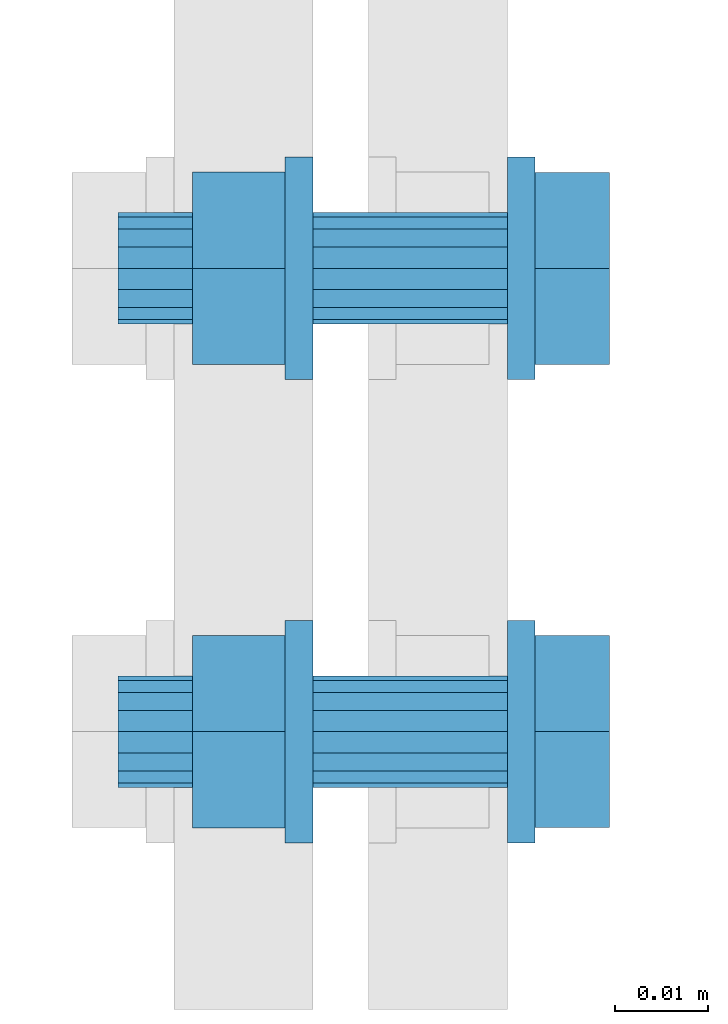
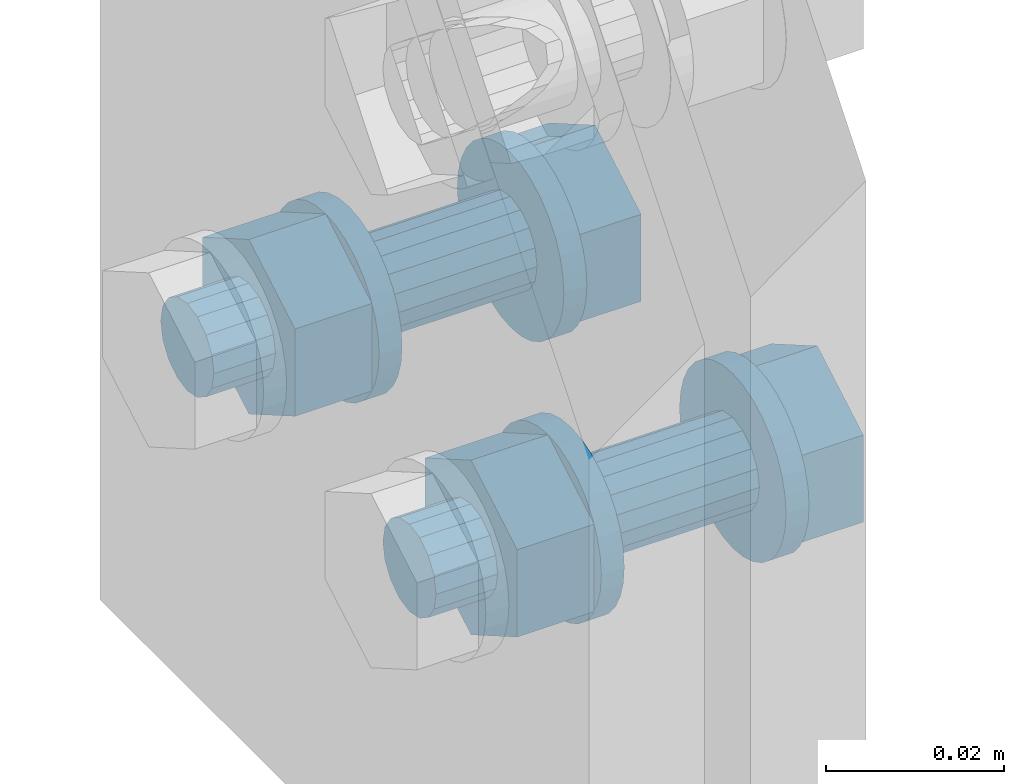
# One storey, part 11 of 13: 2 mechanical fasteners.
"""IFC4X3_ADD2 building model written with IfcOpenShell, lengths in millimetres."""

from ifc_helpers import new_model, entity, si_unit, converted_unit, derived_unit, direction, origin, place, context, project, spatial, faceted_brep, element, save


model = new_model("IFC4X3_ADD2")

# Units and contexts
model_context = context("Model", 3, precision=0.01, world=origin(), true_north=direction((6.123233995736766e-17, 1.0)))
plan_context = context("Plan", 3, precision=0.01, world=origin(), true_north=direction((6.123233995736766e-17, 1.0)))
ifc_project = project(units=[si_unit("LENGTHUNIT", "METRE", prefix="MILLI"), converted_unit("PLANEANGLEUNIT", "DEGREE", entity("IfcPlaneAngleMeasure", 0.017453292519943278), si_unit("PLANEANGLEUNIT", "RADIAN"), dimensions=[0, 0, 0, 0, 0, 0, 0]), si_unit("AREAUNIT", "SQUARE_METRE"), si_unit("VOLUMEUNIT", "CUBIC_METRE"), derived_unit("THERMALTRANSMITTANCEUNIT", [(si_unit("MASSUNIT", "GRAM", prefix="KILO"), 1), (si_unit("THERMODYNAMICTEMPERATUREUNIT", "KELVIN"), -1), (si_unit("TIMEUNIT", "SECOND"), -3)]), derived_unit("USERDEFINED", [(si_unit("MASSUNIT", "GRAM", prefix="KILO"), 1), (si_unit("THERMODYNAMICTEMPERATUREUNIT", "KELVIN"), -1), (si_unit("TIMEUNIT", "SECOND"), -2)]), derived_unit("THERMALRESISTANCEUNIT", [(si_unit("MASSUNIT", "GRAM", prefix="KILO"), -1), (si_unit("TIMEUNIT", "SECOND"), 3), (si_unit("THERMODYNAMICTEMPERATUREUNIT", "KELVIN"), 1)]), si_unit("MASSUNIT", "GRAM", prefix="KILO"), derived_unit("MOMENTOFINERTIAUNIT", [(si_unit("LENGTHUNIT", "METRE"), 4)]), derived_unit("LINEARFORCEUNIT", [(si_unit("MASSUNIT", "GRAM", prefix="KILO"), 1), (si_unit("TIMEUNIT", "SECOND"), -2)]), derived_unit("WARPINGCONSTANTUNIT", [(si_unit("LENGTHUNIT", "METRE"), 6)]), si_unit("PRESSUREUNIT", "PASCAL"), derived_unit("MASSDENSITYUNIT", [(si_unit("MASSUNIT", "GRAM", prefix="KILO"), 1), (si_unit("LENGTHUNIT", "METRE"), -3)]), derived_unit("MODULUSOFELASTICITYUNIT", [(si_unit("MASSUNIT", "GRAM", prefix="KILO"), 1), (si_unit("TIMEUNIT", "SECOND"), -2), (si_unit("LENGTHUNIT", "METRE"), -1)]), derived_unit("THERMALEXPANSIONCOEFFICIENTUNIT", [(si_unit("THERMODYNAMICTEMPERATUREUNIT", "KELVIN"), -1)]), derived_unit("VAPORPERMEABILITYUNIT", [(si_unit("LENGTHUNIT", "METRE"), -1), (si_unit("TIMEUNIT", "SECOND"), 1)]), derived_unit("USERDEFINED", [(si_unit("MASSUNIT", "GRAM", prefix="KILO"), 1), (si_unit("TIMEUNIT", "SECOND"), -3), (si_unit("LENGTHUNIT", "METRE"), 3), (si_unit("ELECTRICCURRENTUNIT", "AMPERE"), -2)]), derived_unit("SPECIFICHEATCAPACITYUNIT", [(si_unit("THERMODYNAMICTEMPERATUREUNIT", "KELVIN"), -1), (si_unit("TIMEUNIT", "SECOND"), -2), (si_unit("LENGTHUNIT", "METRE"), 2)]), derived_unit("THERMALCONDUCTANCEUNIT", [(si_unit("MASSUNIT", "GRAM", prefix="KILO"), 1), (si_unit("THERMODYNAMICTEMPERATUREUNIT", "KELVIN"), -1), (si_unit("TIMEUNIT", "SECOND"), -3), (si_unit("LENGTHUNIT", "METRE"), 1)])], contexts=[model_context, plan_context])

# Site, building, storey
site_placement = place(None, origin())
site = spatial("IfcSite", under=ifc_project, at=site_placement, Name="Default", CompositionType="ELEMENT")
building_placement = place(site_placement, origin())
building = spatial("IfcBuilding", under=site, at=building_placement, Name="Complex structure", CompositionType="ELEMENT")
storey_placement = place(building_placement, origin())
storey = spatial("IfcBuildingStorey", under=building, at=storey_placement, Name="Level 00", CompositionType="ELEMENT", Elevation=0.0)

# Mechanical fasteners
mechanical_fastener_1_placement = place(storey_placement, origin())
element("IfcMechanicalFastener", 1, at=mechanical_fastener_1_placement, inside=storey, ObjectType="Bolt#5", NominalDiameter=12.0, NominalLength=45.0, context=model_context, shape_type="Brep", body=[
    faceted_brep([(-5124.221550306, -1269.866703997, 2900.0), (-5127.221550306, -1269.866703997, 2900.0), (-5127.221550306, -1269.636127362, 2897.658916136), (-5124.221550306, -1269.636127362, 2897.658916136), (-5127.221550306, -1268.953258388, 2895.407798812), (-5124.221550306, -1268.953258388, 2895.407798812), (-5127.221550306, -1267.844339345, 2893.333157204), (-5124.221550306, -1267.844339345, 2893.333157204), (-5127.221550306, -1266.351985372, 2891.514718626), (-5124.221550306, -1266.351985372, 2891.514718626), (-5127.221550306, -1264.533546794, 2890.022364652), (-5124.221550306, -1264.533546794, 2890.022364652), (-5127.221550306, -1262.458905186, 2888.91344561), (-5124.221550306, -1262.458905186, 2888.91344561), (-5127.221550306, -1260.207787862, 2888.230576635), (-5124.221550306, -1260.207787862, 2888.230576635), (-5127.221550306, -1257.866703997, 2888.0), (-5124.221550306, -1257.866703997, 2888.0), (-5127.221550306, -1255.525620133, 2888.230576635), (-5124.221550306, -1255.525620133, 2888.230576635), (-5127.221550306, -1253.274502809, 2888.91344561), (-5124.221550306, -1253.274502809, 2888.91344561), (-5127.221550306, -1251.199861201, 2890.022364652), (-5124.221550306, -1251.199861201, 2890.022364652), (-5127.221550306, -1249.381422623, 2891.514718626), (-5124.221550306, -1249.381422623, 2891.514718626), (-5127.221550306, -1247.88906865, 2893.333157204), (-5124.221550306, -1247.88906865, 2893.333157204), (-5127.221550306, -1246.780149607, 2895.407798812), (-5124.221550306, -1246.780149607, 2895.407798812), (-5127.221550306, -1246.097280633, 2897.658916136), (-5124.221550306, -1246.097280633, 2897.658916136), (-5127.221550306, -1245.866703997, 2900.0), (-5124.221550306, -1245.866703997, 2900.0), (-5127.221550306, -1246.097280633, 2902.341083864), (-5124.221550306, -1246.097280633, 2902.341083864), (-5127.221550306, -1246.780149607, 2904.592201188), (-5124.221550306, -1246.780149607, 2904.592201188), (-5127.221550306, -1247.88906865, 2906.666842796), (-5124.221550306, -1247.88906865, 2906.666842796), (-5127.221550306, -1249.381422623, 2908.485281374), (-5124.221550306, -1249.381422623, 2908.485281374), (-5127.221550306, -1251.199861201, 2909.977635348), (-5124.221550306, -1251.199861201, 2909.977635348), (-5127.221550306, -1253.274502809, 2911.08655439), (-5124.221550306, -1253.274502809, 2911.08655439), (-5127.221550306, -1255.525620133, 2911.769423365), (-5124.221550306, -1255.525620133, 2911.769423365), (-5127.221550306, -1257.866703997, 2912.0), (-5124.221550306, -1257.866703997, 2912.0), (-5127.221550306, -1260.207787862, 2911.769423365), (-5124.221550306, -1260.207787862, 2911.769423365), (-5127.221550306, -1262.458905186, 2911.08655439), (-5124.221550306, -1262.458905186, 2911.08655439), (-5127.221550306, -1264.533546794, 2909.977635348), (-5124.221550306, -1264.533546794, 2909.977635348), (-5127.221550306, -1266.351985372, 2908.485281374), (-5124.221550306, -1266.351985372, 2908.485281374), (-5127.221550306, -1267.844339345, 2906.666842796), (-5124.221550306, -1267.844339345, 2906.666842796), (-5127.221550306, -1268.953258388, 2904.592201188), (-5124.221550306, -1268.953258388, 2904.592201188), (-5127.221550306, -1269.636127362, 2902.341083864), (-5124.221550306, -1269.636127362, 2902.341083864)], [[[0, 1, 2, 3]], [[3, 2, 4, 5]], [[5, 4, 6, 7]], [[7, 6, 8, 9]], [[9, 8, 10, 11]], [[11, 10, 12, 13]], [[13, 12, 14, 15]], [[15, 14, 16, 17]], [[17, 16, 18, 19]], [[19, 18, 20, 21]], [[21, 20, 22, 23]], [[23, 22, 24, 25]], [[25, 24, 26, 27]], [[27, 26, 28, 29]], [[29, 28, 30, 31]], [[31, 30, 32, 33]], [[33, 32, 34, 35]], [[35, 34, 36, 37]], [[37, 36, 38, 39]], [[39, 38, 40, 41]], [[41, 40, 42, 43]], [[43, 42, 44, 45]], [[45, 44, 46, 47]], [[47, 46, 48, 49]], [[49, 48, 50, 51]], [[51, 50, 52, 53]], [[53, 52, 54, 55]], [[55, 54, 56, 57]], [[57, 56, 58, 59]], [[59, 58, 60, 61]], [[61, 60, 62, 63]], [[63, 62, 1, 0]], [[0, 3, 5, 7, 9, 11, 13, 15, 17, 19, 21, 23, 25, 27, 29, 31, 33, 35, 37, 39, 41, 43, 45, 47, 49, 51, 53, 55, 57, 59, 61, 63]], [[1, 62, 60, 58, 56, 54, 52, 50, 48, 46, 44, 42, 40, 38, 36, 34, 32, 30, 28, 26, 24, 22, 20, 18, 16, 14, 12, 10, 8, 6, 4, 2]]]),
    faceted_brep([(-5124.221550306, -1247.513370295, 2894.0225), (-5116.221550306, -1247.513370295, 2894.0225), (-5116.221550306, -1257.866703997, 2888.045), (-5124.221550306, -1257.866703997, 2888.045), (-5116.221550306, -1268.2200377, 2894.0225), (-5124.221550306, -1268.2200377, 2894.0225), (-5116.221550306, -1268.2200377, 2905.9775), (-5124.221550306, -1268.2200377, 2905.9775), (-5116.221550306, -1257.866703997, 2911.955), (-5124.221550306, -1257.866703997, 2911.955), (-5116.221550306, -1247.513370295, 2905.9775), (-5124.221550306, -1247.513370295, 2905.9775)], [[[0, 1, 2, 3]], [[3, 2, 4, 5]], [[5, 4, 6, 7]], [[7, 6, 8, 9]], [[9, 8, 10, 11]], [[11, 10, 1, 0]], [[4, 2, 1, 10, 8, 6]], [[0, 3, 5, 7, 9, 11]]]),
    faceted_brep([(-5127.221550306, -1263.866703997, 2900.0), (-5148.221550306, -1263.866703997, 2900.0), (-5148.221550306, -1263.409981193, 2897.703899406), (-5127.221550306, -1263.409981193, 2897.703899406), (-5148.221550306, -1262.109344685, 2895.757359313), (-5127.221550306, -1262.109344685, 2895.757359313), (-5148.221550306, -1260.162804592, 2894.456722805), (-5127.221550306, -1260.162804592, 2894.456722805), (-5148.221550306, -1257.866703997, 2894.0), (-5127.221550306, -1257.866703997, 2894.0), (-5148.221550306, -1255.570603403, 2894.456722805), (-5127.221550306, -1255.570603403, 2894.456722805), (-5148.221550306, -1253.62406331, 2895.757359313), (-5127.221550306, -1253.62406331, 2895.757359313), (-5148.221550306, -1252.323426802, 2897.703899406), (-5127.221550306, -1252.323426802, 2897.703899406), (-5148.221550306, -1251.866703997, 2900.0), (-5127.221550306, -1251.866703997, 2900.0), (-5148.221550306, -1252.323426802, 2902.296100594), (-5127.221550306, -1252.323426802, 2902.296100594), (-5148.221550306, -1253.62406331, 2904.242640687), (-5127.221550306, -1253.62406331, 2904.242640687), (-5148.221550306, -1255.570603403, 2905.543277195), (-5127.221550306, -1255.570603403, 2905.543277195), (-5148.221550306, -1257.866703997, 2906.0), (-5127.221550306, -1257.866703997, 2906.0), (-5148.221550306, -1260.162804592, 2905.543277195), (-5127.221550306, -1260.162804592, 2905.543277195), (-5148.221550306, -1262.109344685, 2904.242640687), (-5127.221550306, -1262.109344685, 2904.242640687), (-5148.221550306, -1263.409981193, 2902.296100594), (-5127.221550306, -1263.409981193, 2902.296100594)], [[[0, 1, 2, 3]], [[3, 2, 4, 5]], [[5, 4, 6, 7]], [[7, 6, 8, 9]], [[9, 8, 10, 11]], [[11, 10, 12, 13]], [[13, 12, 14, 15]], [[15, 14, 16, 17]], [[17, 16, 18, 19]], [[19, 18, 20, 21]], [[21, 20, 22, 23]], [[23, 22, 24, 25]], [[25, 24, 26, 27]], [[27, 26, 28, 29]], [[29, 28, 30, 31]], [[31, 30, 1, 0]], [[0, 3, 5, 7, 9, 11, 13, 15, 17, 19, 21, 23, 25, 27, 29, 31]], [[1, 30, 28, 26, 24, 22, 20, 18, 16, 14, 12, 10, 8, 6, 4, 2]]]),
    faceted_brep([(-5148.221550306, -1269.866703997, 2900.0), (-5151.221550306, -1269.866703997, 2900.0), (-5151.221550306, -1269.636127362, 2897.658916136), (-5148.221550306, -1269.636127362, 2897.658916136), (-5151.221550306, -1268.953258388, 2895.407798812), (-5148.221550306, -1268.953258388, 2895.407798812), (-5151.221550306, -1267.844339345, 2893.333157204), (-5148.221550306, -1267.844339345, 2893.333157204), (-5151.221550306, -1266.351985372, 2891.514718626), (-5148.221550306, -1266.351985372, 2891.514718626), (-5151.221550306, -1264.533546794, 2890.022364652), (-5148.221550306, -1264.533546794, 2890.022364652), (-5151.221550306, -1262.458905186, 2888.91344561), (-5148.221550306, -1262.458905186, 2888.91344561), (-5151.221550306, -1260.207787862, 2888.230576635), (-5148.221550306, -1260.207787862, 2888.230576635), (-5151.221550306, -1257.866703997, 2888.0), (-5148.221550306, -1257.866703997, 2888.0), (-5151.221550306, -1255.525620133, 2888.230576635), (-5148.221550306, -1255.525620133, 2888.230576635), (-5151.221550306, -1253.274502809, 2888.91344561), (-5148.221550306, -1253.274502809, 2888.91344561), (-5151.221550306, -1251.199861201, 2890.022364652), (-5148.221550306, -1251.199861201, 2890.022364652), (-5151.221550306, -1249.381422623, 2891.514718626), (-5148.221550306, -1249.381422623, 2891.514718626), (-5151.221550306, -1247.88906865, 2893.333157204), (-5148.221550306, -1247.88906865, 2893.333157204), (-5151.221550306, -1246.780149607, 2895.407798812), (-5148.221550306, -1246.780149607, 2895.407798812), (-5151.221550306, -1246.097280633, 2897.658916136), (-5148.221550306, -1246.097280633, 2897.658916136), (-5151.221550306, -1245.866703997, 2900.0), (-5148.221550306, -1245.866703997, 2900.0), (-5151.221550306, -1246.097280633, 2902.341083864), (-5148.221550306, -1246.097280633, 2902.341083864), (-5151.221550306, -1246.780149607, 2904.592201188), (-5148.221550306, -1246.780149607, 2904.592201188), (-5151.221550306, -1247.88906865, 2906.666842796), (-5148.221550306, -1247.88906865, 2906.666842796), (-5151.221550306, -1249.381422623, 2908.485281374), (-5148.221550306, -1249.381422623, 2908.485281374), (-5151.221550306, -1251.199861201, 2909.977635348), (-5148.221550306, -1251.199861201, 2909.977635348), (-5151.221550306, -1253.274502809, 2911.08655439), (-5148.221550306, -1253.274502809, 2911.08655439), (-5151.221550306, -1255.525620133, 2911.769423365), (-5148.221550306, -1255.525620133, 2911.769423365), (-5151.221550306, -1257.866703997, 2912.0), (-5148.221550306, -1257.866703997, 2912.0), (-5151.221550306, -1260.207787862, 2911.769423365), (-5148.221550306, -1260.207787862, 2911.769423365), (-5151.221550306, -1262.458905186, 2911.08655439), (-5148.221550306, -1262.458905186, 2911.08655439), (-5151.221550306, -1264.533546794, 2909.977635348), (-5148.221550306, -1264.533546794, 2909.977635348), (-5151.221550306, -1266.351985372, 2908.485281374), (-5148.221550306, -1266.351985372, 2908.485281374), (-5151.221550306, -1267.844339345, 2906.666842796), (-5148.221550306, -1267.844339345, 2906.666842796), (-5151.221550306, -1268.953258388, 2904.592201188), (-5148.221550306, -1268.953258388, 2904.592201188), (-5151.221550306, -1269.636127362, 2902.341083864), (-5148.221550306, -1269.636127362, 2902.341083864)], [[[0, 1, 2, 3]], [[3, 2, 4, 5]], [[5, 4, 6, 7]], [[7, 6, 8, 9]], [[9, 8, 10, 11]], [[11, 10, 12, 13]], [[13, 12, 14, 15]], [[15, 14, 16, 17]], [[17, 16, 18, 19]], [[19, 18, 20, 21]], [[21, 20, 22, 23]], [[23, 22, 24, 25]], [[25, 24, 26, 27]], [[27, 26, 28, 29]], [[29, 28, 30, 31]], [[31, 30, 32, 33]], [[33, 32, 34, 35]], [[35, 34, 36, 37]], [[37, 36, 38, 39]], [[39, 38, 40, 41]], [[41, 40, 42, 43]], [[43, 42, 44, 45]], [[45, 44, 46, 47]], [[47, 46, 48, 49]], [[49, 48, 50, 51]], [[51, 50, 52, 53]], [[53, 52, 54, 55]], [[55, 54, 56, 57]], [[57, 56, 58, 59]], [[59, 58, 60, 61]], [[61, 60, 62, 63]], [[63, 62, 1, 0]], [[0, 3, 5, 7, 9, 11, 13, 15, 17, 19, 21, 23, 25, 27, 29, 31, 33, 35, 37, 39, 41, 43, 45, 47, 49, 51, 53, 55, 57, 59, 61, 63]], [[1, 62, 60, 58, 56, 54, 52, 50, 48, 46, 44, 42, 40, 38, 36, 34, 32, 30, 28, 26, 24, 22, 20, 18, 16, 14, 12, 10, 8, 6, 4, 2]]]),
    faceted_brep([(-5161.221550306, -1247.474399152, 2894.0), (-5151.221550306, -1247.474399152, 2894.0), (-5151.221550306, -1257.866703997, 2888.0), (-5161.221550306, -1257.866703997, 2888.0), (-5151.221550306, -1268.259008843, 2894.0), (-5161.221550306, -1268.259008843, 2894.0), (-5151.221550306, -1268.259008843, 2906.0), (-5161.221550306, -1268.259008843, 2906.0), (-5151.221550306, -1257.866703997, 2912.0), (-5161.221550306, -1257.866703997, 2912.0), (-5151.221550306, -1247.474399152, 2906.0), (-5161.221550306, -1247.474399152, 2906.0)], [[[0, 1, 2, 3]], [[3, 2, 4, 5]], [[5, 4, 6, 7]], [[7, 6, 8, 9]], [[9, 8, 10, 11]], [[11, 10, 1, 0]], [[4, 2, 1, 10, 8, 6]], [[0, 3, 5, 7, 9, 11]]]),
    faceted_brep([(-5161.221550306, -1263.866703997, 2900.0), (-5169.221550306, -1263.866703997, 2900.0), (-5169.221550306, -1263.409981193, 2897.703899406), (-5161.221550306, -1263.409981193, 2897.703899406), (-5169.221550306, -1262.109344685, 2895.757359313), (-5161.221550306, -1262.109344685, 2895.757359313), (-5169.221550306, -1260.162804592, 2894.456722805), (-5161.221550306, -1260.162804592, 2894.456722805), (-5169.221550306, -1257.866703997, 2894.0), (-5161.221550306, -1257.866703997, 2894.0), (-5169.221550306, -1255.570603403, 2894.456722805), (-5161.221550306, -1255.570603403, 2894.456722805), (-5169.221550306, -1253.62406331, 2895.757359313), (-5161.221550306, -1253.62406331, 2895.757359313), (-5169.221550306, -1252.323426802, 2897.703899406), (-5161.221550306, -1252.323426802, 2897.703899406), (-5169.221550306, -1251.866703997, 2900.0), (-5161.221550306, -1251.866703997, 2900.0), (-5169.221550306, -1252.323426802, 2902.296100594), (-5161.221550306, -1252.323426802, 2902.296100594), (-5169.221550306, -1253.62406331, 2904.242640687), (-5161.221550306, -1253.62406331, 2904.242640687), (-5169.221550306, -1255.570603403, 2905.543277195), (-5161.221550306, -1255.570603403, 2905.543277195), (-5169.221550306, -1257.866703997, 2906.0), (-5161.221550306, -1257.866703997, 2906.0), (-5169.221550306, -1260.162804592, 2905.543277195), (-5161.221550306, -1260.162804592, 2905.543277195), (-5169.221550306, -1262.109344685, 2904.242640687), (-5161.221550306, -1262.109344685, 2904.242640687), (-5169.221550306, -1263.409981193, 2902.296100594), (-5161.221550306, -1263.409981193, 2902.296100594)], [[[0, 1, 2, 3]], [[3, 2, 4, 5]], [[5, 4, 6, 7]], [[7, 6, 8, 9]], [[9, 8, 10, 11]], [[11, 10, 12, 13]], [[13, 12, 14, 15]], [[15, 14, 16, 17]], [[17, 16, 18, 19]], [[19, 18, 20, 21]], [[21, 20, 22, 23]], [[23, 22, 24, 25]], [[25, 24, 26, 27]], [[27, 26, 28, 29]], [[29, 28, 30, 31]], [[31, 30, 1, 0]], [[0, 3, 5, 7, 9, 11, 13, 15, 17, 19, 21, 23, 25, 27, 29, 31]], [[1, 30, 28, 26, 24, 22, 20, 18, 16, 14, 12, 10, 8, 6, 4, 2]]]),
])
mechanical_fastener_2_placement = place(storey_placement, origin())
element("IfcMechanicalFastener", 2, at=mechanical_fastener_2_placement, inside=storey, ObjectType="Bolt#6", NominalDiameter=12.0, NominalLength=45.0, context=model_context, shape_type="Brep", body=[
    faceted_brep([(-5124.221550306, -1295.866703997, 2900.0), (-5127.221550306, -1295.866703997, 2900.0), (-5127.221550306, -1296.097280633, 2902.341083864), (-5124.221550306, -1296.097280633, 2902.341083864), (-5127.221550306, -1296.780149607, 2904.592201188), (-5124.221550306, -1296.780149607, 2904.592201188), (-5127.221550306, -1297.88906865, 2906.666842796), (-5124.221550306, -1297.88906865, 2906.666842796), (-5127.221550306, -1299.381422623, 2908.485281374), (-5124.221550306, -1299.381422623, 2908.485281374), (-5127.221550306, -1301.199861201, 2909.977635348), (-5124.221550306, -1301.199861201, 2909.977635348), (-5127.221550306, -1303.274502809, 2911.08655439), (-5124.221550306, -1303.274502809, 2911.08655439), (-5127.221550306, -1305.525620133, 2911.769423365), (-5124.221550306, -1305.525620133, 2911.769423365), (-5127.221550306, -1307.866703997, 2912.0), (-5124.221550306, -1307.866703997, 2912.0), (-5127.221550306, -1310.207787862, 2911.769423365), (-5124.221550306, -1310.207787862, 2911.769423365), (-5127.221550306, -1312.458905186, 2911.08655439), (-5124.221550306, -1312.458905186, 2911.08655439), (-5127.221550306, -1314.533546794, 2909.977635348), (-5124.221550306, -1314.533546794, 2909.977635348), (-5127.221550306, -1316.351985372, 2908.485281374), (-5124.221550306, -1316.351985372, 2908.485281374), (-5127.221550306, -1317.844339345, 2906.666842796), (-5124.221550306, -1317.844339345, 2906.666842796), (-5127.221550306, -1318.953258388, 2904.592201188), (-5124.221550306, -1318.953258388, 2904.592201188), (-5127.221550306, -1319.636127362, 2902.341083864), (-5124.221550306, -1319.636127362, 2902.341083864), (-5127.221550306, -1319.866703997, 2900.0), (-5124.221550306, -1319.866703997, 2900.0), (-5127.221550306, -1319.636127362, 2897.658916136), (-5124.221550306, -1319.636127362, 2897.658916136), (-5127.221550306, -1318.953258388, 2895.407798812), (-5124.221550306, -1318.953258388, 2895.407798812), (-5127.221550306, -1317.844339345, 2893.333157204), (-5124.221550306, -1317.844339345, 2893.333157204), (-5127.221550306, -1316.351985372, 2891.514718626), (-5124.221550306, -1316.351985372, 2891.514718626), (-5127.221550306, -1314.533546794, 2890.022364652), (-5124.221550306, -1314.533546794, 2890.022364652), (-5127.221550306, -1312.458905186, 2888.91344561), (-5124.221550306, -1312.458905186, 2888.91344561), (-5127.221550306, -1310.207787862, 2888.230576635), (-5124.221550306, -1310.207787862, 2888.230576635), (-5127.221550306, -1307.866703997, 2888.0), (-5124.221550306, -1307.866703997, 2888.0), (-5127.221550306, -1305.525620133, 2888.230576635), (-5124.221550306, -1305.525620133, 2888.230576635), (-5127.221550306, -1303.274502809, 2888.91344561), (-5124.221550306, -1303.274502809, 2888.91344561), (-5127.221550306, -1301.199861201, 2890.022364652), (-5124.221550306, -1301.199861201, 2890.022364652), (-5127.221550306, -1299.381422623, 2891.514718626), (-5124.221550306, -1299.381422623, 2891.514718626), (-5127.221550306, -1297.88906865, 2893.333157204), (-5124.221550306, -1297.88906865, 2893.333157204), (-5127.221550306, -1296.780149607, 2895.407798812), (-5124.221550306, -1296.780149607, 2895.407798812), (-5127.221550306, -1296.097280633, 2897.658916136), (-5124.221550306, -1296.097280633, 2897.658916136)], [[[0, 1, 2, 3]], [[3, 2, 4, 5]], [[5, 4, 6, 7]], [[7, 6, 8, 9]], [[9, 8, 10, 11]], [[11, 10, 12, 13]], [[13, 12, 14, 15]], [[15, 14, 16, 17]], [[17, 16, 18, 19]], [[19, 18, 20, 21]], [[21, 20, 22, 23]], [[23, 22, 24, 25]], [[25, 24, 26, 27]], [[27, 26, 28, 29]], [[29, 28, 30, 31]], [[31, 30, 32, 33]], [[33, 32, 34, 35]], [[35, 34, 36, 37]], [[37, 36, 38, 39]], [[39, 38, 40, 41]], [[41, 40, 42, 43]], [[43, 42, 44, 45]], [[45, 44, 46, 47]], [[47, 46, 48, 49]], [[49, 48, 50, 51]], [[51, 50, 52, 53]], [[53, 52, 54, 55]], [[55, 54, 56, 57]], [[57, 56, 58, 59]], [[59, 58, 60, 61]], [[61, 60, 62, 63]], [[63, 62, 1, 0]], [[0, 3, 5, 7, 9, 11, 13, 15, 17, 19, 21, 23, 25, 27, 29, 31, 33, 35, 37, 39, 41, 43, 45, 47, 49, 51, 53, 55, 57, 59, 61, 63]], [[1, 62, 60, 58, 56, 54, 52, 50, 48, 46, 44, 42, 40, 38, 36, 34, 32, 30, 28, 26, 24, 22, 20, 18, 16, 14, 12, 10, 8, 6, 4, 2]]]),
    faceted_brep([(-5124.221550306, -1318.2200377, 2905.9775), (-5116.221550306, -1318.2200377, 2905.9775), (-5116.221550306, -1307.866703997, 2911.955), (-5124.221550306, -1307.866703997, 2911.955), (-5116.221550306, -1297.513370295, 2905.9775), (-5124.221550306, -1297.513370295, 2905.9775), (-5116.221550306, -1297.513370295, 2894.0225), (-5124.221550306, -1297.513370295, 2894.0225), (-5116.221550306, -1307.866703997, 2888.045), (-5124.221550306, -1307.866703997, 2888.045), (-5116.221550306, -1318.2200377, 2894.0225), (-5124.221550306, -1318.2200377, 2894.0225)], [[[0, 1, 2, 3]], [[3, 2, 4, 5]], [[5, 4, 6, 7]], [[7, 6, 8, 9]], [[9, 8, 10, 11]], [[11, 10, 1, 0]], [[4, 2, 1, 10, 8, 6]], [[0, 3, 5, 7, 9, 11]]]),
    faceted_brep([(-5127.221550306, -1301.866703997, 2900.0), (-5148.221550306, -1301.866703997, 2900.0), (-5148.221550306, -1302.323426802, 2902.296100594), (-5127.221550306, -1302.323426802, 2902.296100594), (-5148.221550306, -1303.62406331, 2904.242640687), (-5127.221550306, -1303.62406331, 2904.242640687), (-5148.221550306, -1305.570603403, 2905.543277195), (-5127.221550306, -1305.570603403, 2905.543277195), (-5148.221550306, -1307.866703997, 2906.0), (-5127.221550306, -1307.866703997, 2906.0), (-5148.221550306, -1310.162804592, 2905.543277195), (-5127.221550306, -1310.162804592, 2905.543277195), (-5148.221550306, -1312.109344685, 2904.242640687), (-5127.221550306, -1312.109344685, 2904.242640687), (-5148.221550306, -1313.409981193, 2902.296100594), (-5127.221550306, -1313.409981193, 2902.296100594), (-5148.221550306, -1313.866703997, 2900.0), (-5127.221550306, -1313.866703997, 2900.0), (-5148.221550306, -1313.409981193, 2897.703899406), (-5127.221550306, -1313.409981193, 2897.703899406), (-5148.221550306, -1312.109344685, 2895.757359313), (-5127.221550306, -1312.109344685, 2895.757359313), (-5148.221550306, -1310.162804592, 2894.456722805), (-5127.221550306, -1310.162804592, 2894.456722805), (-5148.221550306, -1307.866703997, 2894.0), (-5127.221550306, -1307.866703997, 2894.0), (-5148.221550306, -1305.570603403, 2894.456722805), (-5127.221550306, -1305.570603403, 2894.456722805), (-5148.221550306, -1303.62406331, 2895.757359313), (-5127.221550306, -1303.62406331, 2895.757359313), (-5148.221550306, -1302.323426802, 2897.703899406), (-5127.221550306, -1302.323426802, 2897.703899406)], [[[0, 1, 2, 3]], [[3, 2, 4, 5]], [[5, 4, 6, 7]], [[7, 6, 8, 9]], [[9, 8, 10, 11]], [[11, 10, 12, 13]], [[13, 12, 14, 15]], [[15, 14, 16, 17]], [[17, 16, 18, 19]], [[19, 18, 20, 21]], [[21, 20, 22, 23]], [[23, 22, 24, 25]], [[25, 24, 26, 27]], [[27, 26, 28, 29]], [[29, 28, 30, 31]], [[31, 30, 1, 0]], [[0, 3, 5, 7, 9, 11, 13, 15, 17, 19, 21, 23, 25, 27, 29, 31]], [[1, 30, 28, 26, 24, 22, 20, 18, 16, 14, 12, 10, 8, 6, 4, 2]]]),
    faceted_brep([(-5148.221550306, -1295.866703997, 2900.0), (-5151.221550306, -1295.866703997, 2900.0), (-5151.221550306, -1296.097280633, 2902.341083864), (-5148.221550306, -1296.097280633, 2902.341083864), (-5151.221550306, -1296.780149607, 2904.592201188), (-5148.221550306, -1296.780149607, 2904.592201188), (-5151.221550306, -1297.88906865, 2906.666842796), (-5148.221550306, -1297.88906865, 2906.666842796), (-5151.221550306, -1299.381422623, 2908.485281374), (-5148.221550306, -1299.381422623, 2908.485281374), (-5151.221550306, -1301.199861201, 2909.977635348), (-5148.221550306, -1301.199861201, 2909.977635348), (-5151.221550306, -1303.274502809, 2911.08655439), (-5148.221550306, -1303.274502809, 2911.08655439), (-5151.221550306, -1305.525620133, 2911.769423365), (-5148.221550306, -1305.525620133, 2911.769423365), (-5151.221550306, -1307.866703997, 2912.0), (-5148.221550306, -1307.866703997, 2912.0), (-5151.221550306, -1310.207787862, 2911.769423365), (-5148.221550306, -1310.207787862, 2911.769423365), (-5151.221550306, -1312.458905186, 2911.08655439), (-5148.221550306, -1312.458905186, 2911.08655439), (-5151.221550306, -1314.533546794, 2909.977635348), (-5148.221550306, -1314.533546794, 2909.977635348), (-5151.221550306, -1316.351985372, 2908.485281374), (-5148.221550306, -1316.351985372, 2908.485281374), (-5151.221550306, -1317.844339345, 2906.666842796), (-5148.221550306, -1317.844339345, 2906.666842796), (-5151.221550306, -1318.953258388, 2904.592201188), (-5148.221550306, -1318.953258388, 2904.592201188), (-5151.221550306, -1319.636127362, 2902.341083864), (-5148.221550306, -1319.636127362, 2902.341083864), (-5151.221550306, -1319.866703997, 2900.0), (-5148.221550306, -1319.866703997, 2900.0), (-5151.221550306, -1319.636127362, 2897.658916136), (-5148.221550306, -1319.636127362, 2897.658916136), (-5151.221550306, -1318.953258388, 2895.407798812), (-5148.221550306, -1318.953258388, 2895.407798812), (-5151.221550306, -1317.844339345, 2893.333157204), (-5148.221550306, -1317.844339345, 2893.333157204), (-5151.221550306, -1316.351985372, 2891.514718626), (-5148.221550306, -1316.351985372, 2891.514718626), (-5151.221550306, -1314.533546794, 2890.022364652), (-5148.221550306, -1314.533546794, 2890.022364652), (-5151.221550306, -1312.458905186, 2888.91344561), (-5148.221550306, -1312.458905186, 2888.91344561), (-5151.221550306, -1310.207787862, 2888.230576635), (-5148.221550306, -1310.207787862, 2888.230576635), (-5151.221550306, -1307.866703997, 2888.0), (-5148.221550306, -1307.866703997, 2888.0), (-5151.221550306, -1305.525620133, 2888.230576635), (-5148.221550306, -1305.525620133, 2888.230576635), (-5151.221550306, -1303.274502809, 2888.91344561), (-5148.221550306, -1303.274502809, 2888.91344561), (-5151.221550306, -1301.199861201, 2890.022364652), (-5148.221550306, -1301.199861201, 2890.022364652), (-5151.221550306, -1299.381422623, 2891.514718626), (-5148.221550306, -1299.381422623, 2891.514718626), (-5151.221550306, -1297.88906865, 2893.333157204), (-5148.221550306, -1297.88906865, 2893.333157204), (-5151.221550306, -1296.780149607, 2895.407798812), (-5148.221550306, -1296.780149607, 2895.407798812), (-5151.221550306, -1296.097280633, 2897.658916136), (-5148.221550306, -1296.097280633, 2897.658916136)], [[[0, 1, 2, 3]], [[3, 2, 4, 5]], [[5, 4, 6, 7]], [[7, 6, 8, 9]], [[9, 8, 10, 11]], [[11, 10, 12, 13]], [[13, 12, 14, 15]], [[15, 14, 16, 17]], [[17, 16, 18, 19]], [[19, 18, 20, 21]], [[21, 20, 22, 23]], [[23, 22, 24, 25]], [[25, 24, 26, 27]], [[27, 26, 28, 29]], [[29, 28, 30, 31]], [[31, 30, 32, 33]], [[33, 32, 34, 35]], [[35, 34, 36, 37]], [[37, 36, 38, 39]], [[39, 38, 40, 41]], [[41, 40, 42, 43]], [[43, 42, 44, 45]], [[45, 44, 46, 47]], [[47, 46, 48, 49]], [[49, 48, 50, 51]], [[51, 50, 52, 53]], [[53, 52, 54, 55]], [[55, 54, 56, 57]], [[57, 56, 58, 59]], [[59, 58, 60, 61]], [[61, 60, 62, 63]], [[63, 62, 1, 0]], [[0, 3, 5, 7, 9, 11, 13, 15, 17, 19, 21, 23, 25, 27, 29, 31, 33, 35, 37, 39, 41, 43, 45, 47, 49, 51, 53, 55, 57, 59, 61, 63]], [[1, 62, 60, 58, 56, 54, 52, 50, 48, 46, 44, 42, 40, 38, 36, 34, 32, 30, 28, 26, 24, 22, 20, 18, 16, 14, 12, 10, 8, 6, 4, 2]]]),
    faceted_brep([(-5161.221550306, -1318.259008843, 2906.0), (-5151.221550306, -1318.259008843, 2906.0), (-5151.221550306, -1307.866703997, 2912.0), (-5161.221550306, -1307.866703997, 2912.0), (-5151.221550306, -1297.474399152, 2906.0), (-5161.221550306, -1297.474399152, 2906.0), (-5151.221550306, -1297.474399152, 2894.0), (-5161.221550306, -1297.474399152, 2894.0), (-5151.221550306, -1307.866703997, 2888.0), (-5161.221550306, -1307.866703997, 2888.0), (-5151.221550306, -1318.259008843, 2894.0), (-5161.221550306, -1318.259008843, 2894.0)], [[[0, 1, 2, 3]], [[3, 2, 4, 5]], [[5, 4, 6, 7]], [[7, 6, 8, 9]], [[9, 8, 10, 11]], [[11, 10, 1, 0]], [[4, 2, 1, 10, 8, 6]], [[0, 3, 5, 7, 9, 11]]]),
    faceted_brep([(-5161.221550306, -1301.866703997, 2900.0), (-5169.221550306, -1301.866703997, 2900.0), (-5169.221550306, -1302.323426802, 2902.296100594), (-5161.221550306, -1302.323426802, 2902.296100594), (-5169.221550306, -1303.62406331, 2904.242640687), (-5161.221550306, -1303.62406331, 2904.242640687), (-5169.221550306, -1305.570603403, 2905.543277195), (-5161.221550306, -1305.570603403, 2905.543277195), (-5169.221550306, -1307.866703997, 2906.0), (-5161.221550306, -1307.866703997, 2906.0), (-5169.221550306, -1310.162804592, 2905.543277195), (-5161.221550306, -1310.162804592, 2905.543277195), (-5169.221550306, -1312.109344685, 2904.242640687), (-5161.221550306, -1312.109344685, 2904.242640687), (-5169.221550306, -1313.409981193, 2902.296100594), (-5161.221550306, -1313.409981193, 2902.296100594), (-5169.221550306, -1313.866703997, 2900.0), (-5161.221550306, -1313.866703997, 2900.0), (-5169.221550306, -1313.409981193, 2897.703899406), (-5161.221550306, -1313.409981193, 2897.703899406), (-5169.221550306, -1312.109344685, 2895.757359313), (-5161.221550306, -1312.109344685, 2895.757359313), (-5169.221550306, -1310.162804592, 2894.456722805), (-5161.221550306, -1310.162804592, 2894.456722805), (-5169.221550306, -1307.866703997, 2894.0), (-5161.221550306, -1307.866703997, 2894.0), (-5169.221550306, -1305.570603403, 2894.456722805), (-5161.221550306, -1305.570603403, 2894.456722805), (-5169.221550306, -1303.62406331, 2895.757359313), (-5161.221550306, -1303.62406331, 2895.757359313), (-5169.221550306, -1302.323426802, 2897.703899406), (-5161.221550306, -1302.323426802, 2897.703899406)], [[[0, 1, 2, 3]], [[3, 2, 4, 5]], [[5, 4, 6, 7]], [[7, 6, 8, 9]], [[9, 8, 10, 11]], [[11, 10, 12, 13]], [[13, 12, 14, 15]], [[15, 14, 16, 17]], [[17, 16, 18, 19]], [[19, 18, 20, 21]], [[21, 20, 22, 23]], [[23, 22, 24, 25]], [[25, 24, 26, 27]], [[27, 26, 28, 29]], [[29, 28, 30, 31]], [[31, 30, 1, 0]], [[0, 3, 5, 7, 9, 11, 13, 15, 17, 19, 21, 23, 25, 27, 29, 31]], [[1, 30, 28, 26, 24, 22, 20, 18, 16, 14, 12, 10, 8, 6, 4, 2]]]),
])

save(model, "model.ifc")
